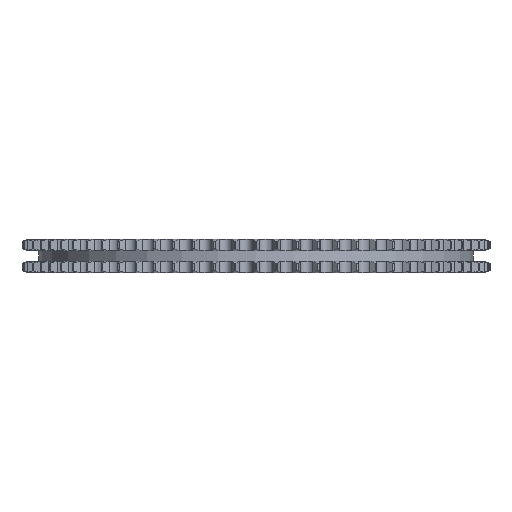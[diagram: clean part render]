
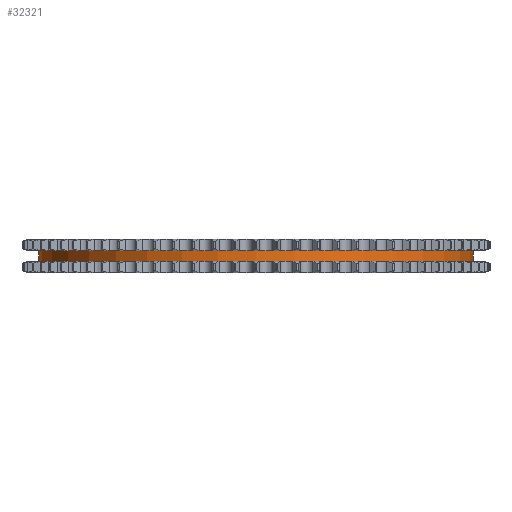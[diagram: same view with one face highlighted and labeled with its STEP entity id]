
A CAD part, left-side view. The second image highlights one B-rep face of the part: STEP entity #32321.
In plain terms, the highlighted cylindrical face has radius 100.152 mm (diameter 200.304 mm), a partial arc.
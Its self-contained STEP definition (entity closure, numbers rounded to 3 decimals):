
#6308=DIRECTION('',(0.,0.,-1.));
#6309=VECTOR('',#6308,4.8);
#6310=CARTESIAN_POINT('',(0.,100.152,2.4));
#6311=LINE('',#6310,#6309);
#6315=CARTESIAN_POINT('',(0.,0.,2.4));
#6316=DIRECTION('',(0.,0.,1.));
#6317=DIRECTION('',(0.,1.,0.));
#6318=AXIS2_PLACEMENT_3D('',#6315,#6316,#6317);
#6323=DIRECTION('',(0.,0.,-1.));
#6324=VECTOR('',#6323,4.8);
#6325=CARTESIAN_POINT('',(0.,-100.152,2.4));
#6326=LINE('',#6325,#6324);
#6330=CARTESIAN_POINT('',(0.,0.,-2.4));
#6331=DIRECTION('',(0.,0.,1.));
#6332=DIRECTION('',(0.,1.,0.));
#6333=AXIS2_PLACEMENT_3D('',#6330,#6331,#6332);
#26068=CARTESIAN_POINT('',(0.,100.152,2.4));
#26069=CARTESIAN_POINT('',(0.,100.152,-2.4));
#26070=VERTEX_POINT('',#26068);
#26071=VERTEX_POINT('',#26069);
#26072=CARTESIAN_POINT('',(0.,-100.152,2.4));
#26073=CARTESIAN_POINT('',(0.,-100.152,-2.4));
#26074=VERTEX_POINT('',#26072);
#26075=VERTEX_POINT('',#26073);
#32309=CARTESIAN_POINT('',(0.,0.,2.64));
#32310=DIRECTION('',(0.,0.,-1.));
#32311=DIRECTION('',(0.,-1.,0.));
#32312=AXIS2_PLACEMENT_3D('',#32309,#32310,#32311);
#32313=CYLINDRICAL_SURFACE('',#32312,100.152);
#32314=ORIENTED_EDGE('',*,*,#32299,.F.);
#32315=ORIENTED_EDGE('',*,*,#32289,.T.);
#32316=ORIENTED_EDGE('',*,*,#32303,.T.);
#32318=ORIENTED_EDGE('',*,*,#32317,.F.);
#32319=EDGE_LOOP('',(#32314,#32315,#32316,#32318));
#32320=FACE_OUTER_BOUND('',#32319,.F.);
#32321=ADVANCED_FACE('',(#32320),#32313,.T.);
#6319=CIRCLE('',#6318,100.152);
#6334=CIRCLE('',#6333,100.152);
#32289=EDGE_CURVE('',#26070,#26074,#6319,.T.);
#32299=EDGE_CURVE('',#26070,#26071,#6311,.T.);
#32303=EDGE_CURVE('',#26074,#26075,#6326,.T.);
#32317=EDGE_CURVE('',#26071,#26075,#6334,.T.);
